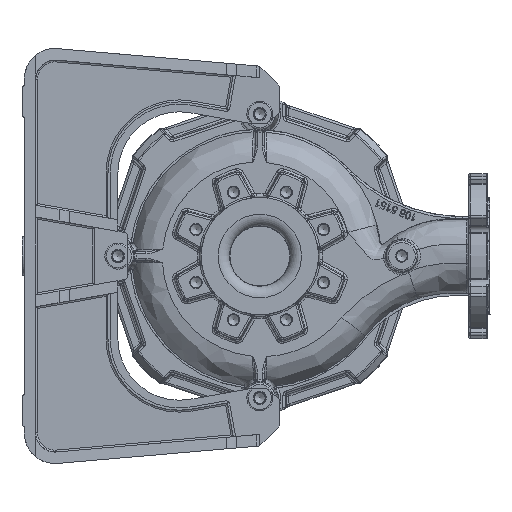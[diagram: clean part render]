
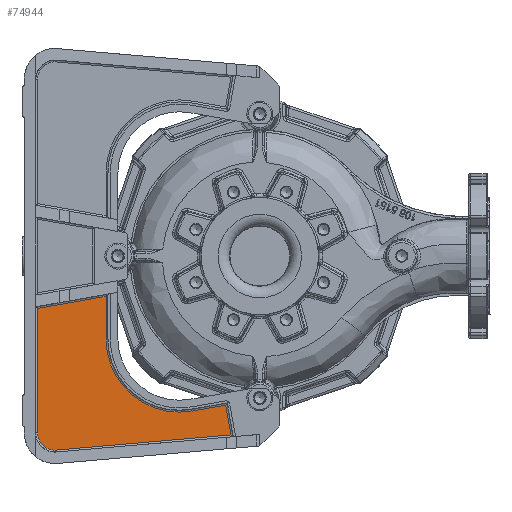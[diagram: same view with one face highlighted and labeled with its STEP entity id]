
A CAD part, left-side view. The second image highlights one B-rep face of the part: STEP entity #74944.
In plain terms, the highlighted planar face has unit normal (-1, 0, 0).
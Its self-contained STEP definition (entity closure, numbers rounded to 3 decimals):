
#956 = CARTESIAN_POINT ( 'NONE',  ( -333.5, 225.384, -249.476 ) ) ;
#1637 = DIRECTION ( 'NONE',  ( 0., 0., 1. ) ) ;
#2724 = CARTESIAN_POINT ( 'NONE',  ( -333.5, 44.461, -194.299 ) ) ;
#4409 = EDGE_CURVE ( 'NONE', #97304, #12074, #47029, .T. ) ;
#6339 = CARTESIAN_POINT ( 'NONE',  ( -333.5, 187.645, -219.546 ) ) ;
#9323 = CARTESIAN_POINT ( 'NONE',  ( -333.5, 200.5, -108. ) ) ;
#12074 = VERTEX_POINT ( 'NONE', #118294 ) ;
#13561 = VERTEX_POINT ( 'NONE', #95919 ) ;
#13907 = DIRECTION ( 'NONE',  ( 1., 0., 0. ) ) ;
#22359 = CARTESIAN_POINT ( 'NONE',  ( -333.5, 267., -230.5 ) ) ;
#23490 = ORIENTED_EDGE ( 'NONE', *, *, #43460, .T. ) ;
#24404 = EDGE_CURVE ( 'NONE', #117525, #46550, #71984, .T. ) ;
#25284 = VECTOR ( 'NONE', #90293, 1000. ) ;
#25521 = LINE ( 'NONE', #79654, #25284 ) ;
#30693 = ORIENTED_EDGE ( 'NONE', *, *, #39075, .T. ) ;
#32991 = DIRECTION ( 'NONE',  ( 0., 0., -1. ) ) ;
#34552 = CARTESIAN_POINT ( 'NONE',  ( -333.5, 267., 230.5 ) ) ;
#36120 = DIRECTION ( 'NONE',  ( 0., 0.985, -0.174 ) ) ;
#36446 = ORIENTED_EDGE ( 'NONE', *, *, #4409, .T. ) ;
#39075 = EDGE_CURVE ( 'NONE', #58081, #117525, #121393, .T. ) ;
#40088 = DIRECTION ( 'NONE',  ( 0., 0.174, 0.985 ) ) ;
#41681 = EDGE_CURVE ( 'NONE', #13561, #118526, #91537, .T. ) ;
#43460 = EDGE_CURVE ( 'NONE', #60823, #13561, #67772, .T. ) ;
#45750 = DIRECTION ( 'NONE',  ( 0., 0., -1. ) ) ;
#46550 = VERTEX_POINT ( 'NONE', #130644 ) ;
#46623 = EDGE_CURVE ( 'NONE', #12074, #58081, #25521, .T. ) ;
#47029 = LINE ( 'NONE', #110624, #49466 ) ;
#49466 = VECTOR ( 'NONE', #36120, 1000. ) ;
#49738 = VECTOR ( 'NONE', #1637, 1000. ) ;
#50250 = LINE ( 'NONE', #65432, #49738 ) ;
#51316 = CARTESIAN_POINT ( 'NONE',  ( -333.5, 123.817, 255.747 ) ) ;
#52112 = AXIS2_PLACEMENT_3D ( 'NONE', #22359, #96775, #32991 ) ;
#56090 = PLANE ( 'NONE',  #95821 ) ;
#58081 = VERTEX_POINT ( 'NONE', #59646 ) ;
#58706 = AXIS2_PLACEMENT_3D ( 'NONE', #77673, #13907, #88314 ) ;
#59646 = CARTESIAN_POINT ( 'NONE',  ( -333.5, 289.5, -230.5 ) ) ;
#60823 = VERTEX_POINT ( 'NONE', #2724 ) ;
#64072 = ORIENTED_EDGE ( 'NONE', *, *, #78853, .T. ) ;
#64753 = DIRECTION ( 'NONE',  ( 0., -0.996, 0.086 ) ) ;
#65432 = CARTESIAN_POINT ( 'NONE',  ( -333.5, 200.5, 230.5 ) ) ;
#67772 = LINE ( 'NONE', #6339, #68065 ) ;
#68065 = VECTOR ( 'NONE', #80810, 1000. ) ;
#71393 = ORIENTED_EDGE ( 'NONE', *, *, #24404, .T. ) ;
#71686 = VECTOR ( 'NONE', #64753, 1000. ) ;
#71984 = LINE ( 'NONE', #956, #71686 ) ;
#74944 = ADVANCED_FACE ( 'NONE', ( #99857 ), #56090, .T. ) ;
#77673 = CARTESIAN_POINT ( 'NONE',  ( -333.5, 105., -108. ) ) ;
#78005 = EDGE_LOOP ( 'NONE', ( #23490, #130580, #64072, #36446, #107135, #30693, #71393, #79459 ) ) ;
#78853 = EDGE_CURVE ( 'NONE', #118526, #97304, #50250, .T. ) ;
#79459 = ORIENTED_EDGE ( 'NONE', *, *, #102040, .T. ) ;
#79654 = CARTESIAN_POINT ( 'NONE',  ( -333.5, 289.5, 230.5 ) ) ;
#80810 = DIRECTION ( 'NONE',  ( 0., 0.985, -0.174 ) ) ;
#81014 = CARTESIAN_POINT ( 'NONE',  ( -333.5, 265.056, -252.916 ) ) ;
#88314 = DIRECTION ( 'NONE',  ( 0., 0., -1. ) ) ;
#90293 = DIRECTION ( 'NONE',  ( 0., 0., -1. ) ) ;
#91537 = CIRCLE ( 'NONE', #58706, 95.5 ) ;
#95821 = AXIS2_PLACEMENT_3D ( 'NONE', #34552, #109525, #45750 ) ;
#95919 = CARTESIAN_POINT ( 'NONE',  ( -333.5, 88.417, -202.049 ) ) ;
#96775 = DIRECTION ( 'NONE',  ( -1., 0., 0. ) ) ;
#97304 = VERTEX_POINT ( 'NONE', #127695 ) ;
#99857 = FACE_OUTER_BOUND ( 'NONE', #78005, .T. ) ;
#102040 = EDGE_CURVE ( 'NONE', #46550, #60823, #106566, .T. ) ;
#105349 = VECTOR ( 'NONE', #40088, 1000. ) ;
#106566 = LINE ( 'NONE', #51316, #105349 ) ;
#107135 = ORIENTED_EDGE ( 'NONE', *, *, #46623, .T. ) ;
#109525 = DIRECTION ( 'NONE',  ( -1., 0., 0. ) ) ;
#110624 = CARTESIAN_POINT ( 'NONE',  ( -333.5, 216.579, -55.454 ) ) ;
#117525 = VERTEX_POINT ( 'NONE', #81014 ) ;
#118294 = CARTESIAN_POINT ( 'NONE',  ( -333.5, 289.5, -68.312 ) ) ;
#118526 = VERTEX_POINT ( 'NONE', #9323 ) ;
#121393 = CIRCLE ( 'NONE', #52112, 22.5 ) ;
#127695 = CARTESIAN_POINT ( 'NONE',  ( -333.5, 200.5, -52.619 ) ) ;
#130580 = ORIENTED_EDGE ( 'NONE', *, *, #41681, .T. ) ;
#130644 = CARTESIAN_POINT ( 'NONE',  ( -333.5, 37.603, -233.195 ) ) ;
